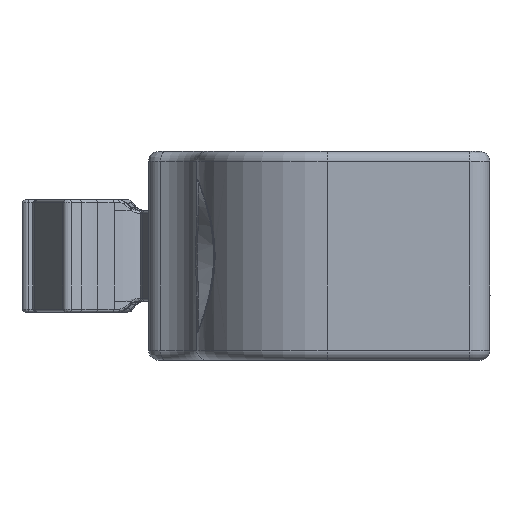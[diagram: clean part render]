
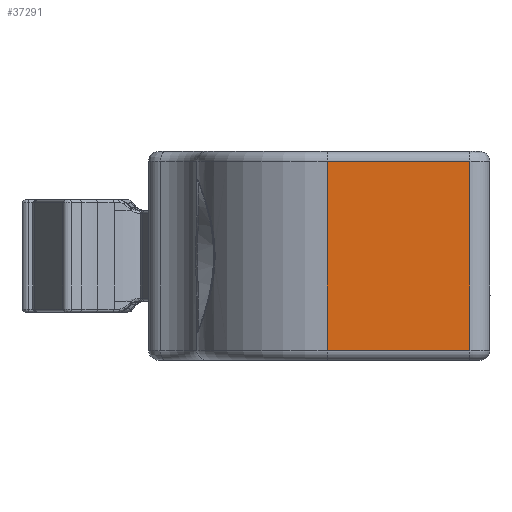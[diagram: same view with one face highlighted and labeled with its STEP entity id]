
A CAD part, left-side view. The second image highlights one B-rep face of the part: STEP entity #37291.
In plain terms, the highlighted planar face has unit normal (-1, 0, 0).
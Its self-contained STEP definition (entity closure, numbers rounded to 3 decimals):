
#2693=DIRECTION('',(0.,-1.,0.));
#2694=VECTOR('',#2693,7.1);
#2695=CARTESIAN_POINT('',(-118.5,-0.55,4.7));
#2696=LINE('',#2695,#2694);
#2700=DIRECTION('',(0.,0.,-1.));
#2701=VECTOR('',#2700,9.4);
#2702=CARTESIAN_POINT('',(-118.5,-7.65,4.7));
#2703=LINE('',#2702,#2701);
#2707=DIRECTION('',(0.,1.,0.));
#2708=VECTOR('',#2707,7.1);
#2709=CARTESIAN_POINT('',(-118.5,-7.65,-4.7));
#2710=LINE('',#2709,#2708);
#2714=DIRECTION('',(0.,0.,1.));
#2715=VECTOR('',#2714,9.4);
#2716=CARTESIAN_POINT('',(-118.5,-0.55,-4.7));
#2717=LINE('',#2716,#2715);
#33332=CARTESIAN_POINT('',(-118.5,-0.55,4.7));
#33333=VERTEX_POINT('',#33332);
#33336=CARTESIAN_POINT('',(-118.5,-7.65,4.7));
#33337=VERTEX_POINT('',#33336);
#33404=CARTESIAN_POINT('',(-118.5,-7.65,-4.7));
#33405=VERTEX_POINT('',#33404);
#33408=CARTESIAN_POINT('',(-118.5,-0.55,-4.7));
#33409=VERTEX_POINT('',#33408);
#37280=CARTESIAN_POINT('',(-118.5,8.65,-5.2));
#37281=DIRECTION('',(-1.,0.,0.));
#37282=DIRECTION('',(0.,-1.,0.));
#37283=AXIS2_PLACEMENT_3D('',#37280,#37281,#37282);
#37284=PLANE('',#37283);
#37285=ORIENTED_EDGE('',*,*,#36028,.T.);
#37286=ORIENTED_EDGE('',*,*,#36082,.T.);
#37287=ORIENTED_EDGE('',*,*,#37267,.T.);
#37288=ORIENTED_EDGE('',*,*,#36958,.T.);
#37289=EDGE_LOOP('',(#37285,#37286,#37287,#37288));
#37290=FACE_OUTER_BOUND('',#37289,.F.);
#36028=EDGE_CURVE('',#33333,#33337,#2696,.T.);
#36082=EDGE_CURVE('',#33337,#33405,#2703,.T.);
#36958=EDGE_CURVE('',#33409,#33333,#2717,.T.);
#37267=EDGE_CURVE('',#33405,#33409,#2710,.T.);
#37291=ADVANCED_FACE('',(#37290),#37284,.T.);
